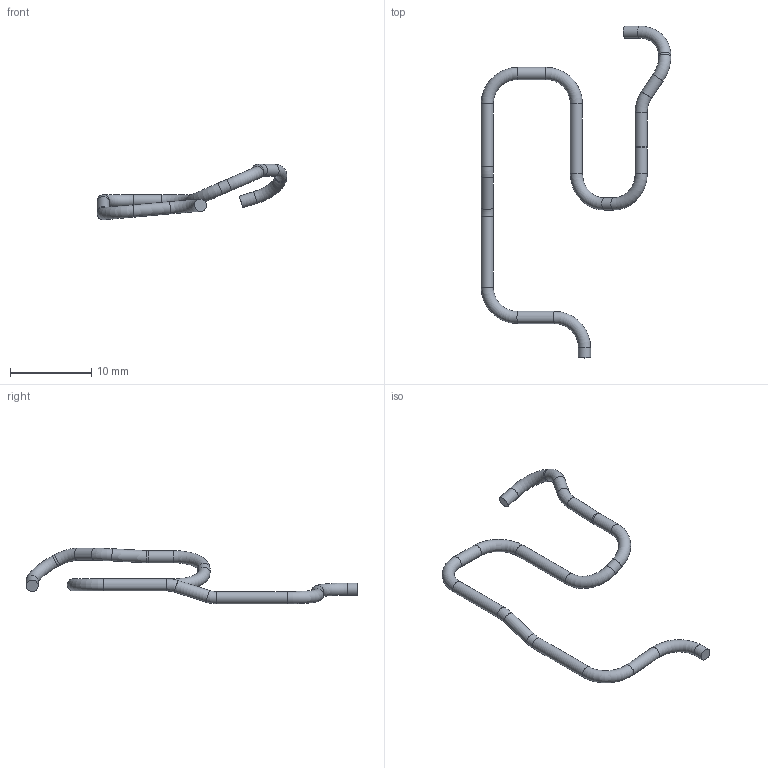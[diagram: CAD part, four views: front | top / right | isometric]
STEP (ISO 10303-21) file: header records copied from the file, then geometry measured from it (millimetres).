
FILE_DESCRIPTION(('Open CASCADE Model'),'2;1');
FILE_NAME('R36_FACTORY_BATTERY_LEAD_1_100mm_INWARD_RISER_FINAL', '2026-09-15T14:48:48',('Author'),('Open CASCADE'), 'Open CASCADE STEP processor 7.9','build123d','Unknown');
FILE_SCHEMA(('AUTOMOTIVE_DESIGN { 1 0 10303 214 1 1 1 1 }'));
Length unit declared in the file: millimetre
Products named in the file (1): R36_FACTORY_BATTERY_LEAD_1_100mm_INWARD_RISER_FINAL
Bounding box: 23.4 x 40.95 x 6.85 mm (x, y, z)
Volume: 176.7 mm3; surface area: 474.8 mm2
Topology: 1 solids, 1 shells, 27 faces, 51 edges, 26 vertices
Faces by surface type: cylinder 13, torus 12, plane 2
Full cylindrical faces by diameter (mm): 1.5 x13
Entity records: 1295 total; most frequent: CARTESIAN_POINT 256, DIRECTION 198, ORIENTED_EDGE 102, PCURVE 102, DEFINITIONAL_REPRESENTATION 102, AXIS2_PLACEMENT_3D 66, LINE 64, VECTOR 64
